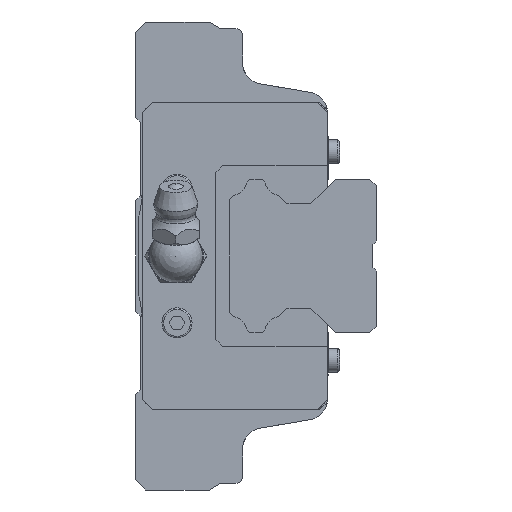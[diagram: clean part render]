
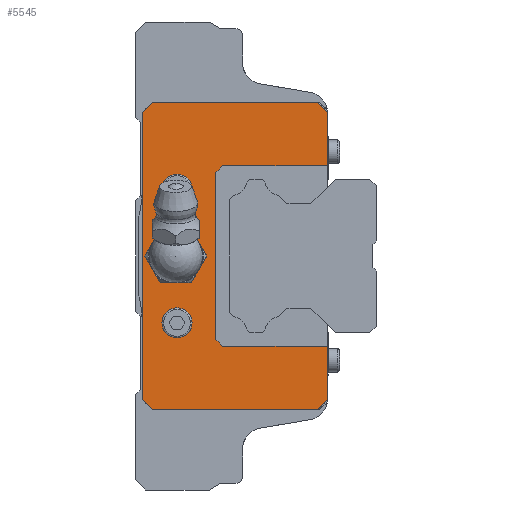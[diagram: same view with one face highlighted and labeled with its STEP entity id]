
A CAD part, left-side view. The second image highlights one B-rep face of the part: STEP entity #5545.
In plain terms, the highlighted planar face has unit normal (-1, 0, 0).
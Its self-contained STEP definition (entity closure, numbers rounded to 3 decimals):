
#275=CIRCLE('',#6039,3.);
#276=CIRCLE('',#6040,2.25);
#277=CIRCLE('',#6041,2.25);
#495=LINE('',#8314,#1045);
#505=LINE('',#8336,#1055);
#534=LINE('',#8395,#1084);
#549=LINE('',#8424,#1099);
#580=LINE('',#8486,#1130);
#602=LINE('',#8537,#1152);
#624=LINE('',#8578,#1174);
#737=LINE('',#9005,#1287);
#739=LINE('',#9008,#1289);
#746=LINE('',#9035,#1296);
#747=LINE('',#9038,#1297);
#748=LINE('',#9039,#1298);
#749=LINE('',#9041,#1299);
#750=LINE('',#9043,#1300);
#1045=VECTOR('',#6675,1000.);
#1055=VECTOR('',#6693,1000.);
#1084=VECTOR('',#6738,1000.);
#1099=VECTOR('',#6757,1000.);
#1130=VECTOR('',#6812,1000.);
#1152=VECTOR('',#6846,1000.);
#1174=VECTOR('',#6870,1000.);
#1287=VECTOR('',#7247,1000.);
#1289=VECTOR('',#7251,1000.);
#1296=VECTOR('',#7278,1000.);
#1297=VECTOR('',#7279,1000.);
#1298=VECTOR('',#7280,1000.);
#1299=VECTOR('',#7281,1000.);
#1300=VECTOR('',#7282,1000.);
#2406=ORIENTED_EDGE('',*,*,#3543,.T.);
#2407=ORIENTED_EDGE('',*,*,#3544,.F.);
#2408=ORIENTED_EDGE('',*,*,#3545,.F.);
#2409=ORIENTED_EDGE('',*,*,#3546,.T.);
#2410=ORIENTED_EDGE('',*,*,#3547,.T.);
#2411=ORIENTED_EDGE('',*,*,#3350,.F.);
#2412=ORIENTED_EDGE('',*,*,#3531,.T.);
#2413=ORIENTED_EDGE('',*,*,#3226,.F.);
#2414=ORIENTED_EDGE('',*,*,#3215,.F.);
#2415=ORIENTED_EDGE('',*,*,#3304,.F.);
#2416=ORIENTED_EDGE('',*,*,#3256,.F.);
#2417=ORIENTED_EDGE('',*,*,#3271,.F.);
#2418=ORIENTED_EDGE('',*,*,#3533,.T.);
#2419=ORIENTED_EDGE('',*,*,#3328,.F.);
#2420=ORIENTED_EDGE('',*,*,#3548,.T.);
#2421=ORIENTED_EDGE('',*,*,#3549,.T.);
#2422=ORIENTED_EDGE('',*,*,#3550,.T.);
#3215=EDGE_CURVE('',#3944,#3945,#495,.T.);
#3226=EDGE_CURVE('',#3945,#3953,#505,.T.);
#3256=EDGE_CURVE('',#3974,#3975,#534,.T.);
#3271=EDGE_CURVE('',#3986,#3974,#549,.T.);
#3304=EDGE_CURVE('',#3975,#3944,#580,.T.);
#3328=EDGE_CURVE('',#4028,#4029,#602,.T.);
#3350=EDGE_CURVE('',#4046,#4047,#624,.T.);
#3531=EDGE_CURVE('',#4046,#3953,#737,.T.);
#3533=EDGE_CURVE('',#3986,#4029,#739,.T.);
#3543=EDGE_CURVE('',#4168,#4168,#275,.T.);
#3544=EDGE_CURVE('',#4169,#4169,#276,.F.);
#3545=EDGE_CURVE('',#4170,#4170,#277,.F.);
#3546=EDGE_CURVE('',#4171,#4172,#746,.T.);
#3547=EDGE_CURVE('',#4172,#4047,#747,.T.);
#3548=EDGE_CURVE('',#4028,#4173,#748,.T.);
#3549=EDGE_CURVE('',#4173,#4174,#749,.T.);
#3550=EDGE_CURVE('',#4174,#4171,#750,.T.);
#3944=VERTEX_POINT('',#8313);
#3945=VERTEX_POINT('',#8315);
#3953=VERTEX_POINT('',#8337);
#3974=VERTEX_POINT('',#8394);
#3975=VERTEX_POINT('',#8396);
#3986=VERTEX_POINT('',#8423);
#4028=VERTEX_POINT('',#8536);
#4029=VERTEX_POINT('',#8538);
#4046=VERTEX_POINT('',#8577);
#4047=VERTEX_POINT('',#8579);
#4168=VERTEX_POINT('',#9030);
#4169=VERTEX_POINT('',#9032);
#4170=VERTEX_POINT('',#9034);
#4171=VERTEX_POINT('',#9036);
#4172=VERTEX_POINT('',#9037);
#4173=VERTEX_POINT('',#9040);
#4174=VERTEX_POINT('',#9042);
#4534=EDGE_LOOP('',(#2406));
#4535=EDGE_LOOP('',(#2407));
#4536=EDGE_LOOP('',(#2408));
#4537=EDGE_LOOP('',(#2409,#2410,#2411,#2412,#2413,#2414,#2415,#2416,#2417,
#2418,#2419,#2420,#2421,#2422));
#4947=FACE_BOUND('',#4534,.T.);
#4948=FACE_BOUND('',#4535,.T.);
#4949=FACE_BOUND('',#4536,.T.);
#4950=FACE_BOUND('',#4537,.T.);
#5275=PLANE('',#6038);
#5545=ADVANCED_FACE('',(#4947,#4948,#4949,#4950),#5275,.F.);
#6038=AXIS2_PLACEMENT_3D('',#9028,#7270,#7271);
#6039=AXIS2_PLACEMENT_3D('',#9029,#7272,#7273);
#6040=AXIS2_PLACEMENT_3D('',#9031,#7274,#7275);
#6041=AXIS2_PLACEMENT_3D('',#9033,#7276,#7277);
#6675=DIRECTION('',(0.,-0.707,0.707));
#6693=DIRECTION('',(0.,-1.,0.));
#6738=DIRECTION('',(0.,0.707,0.707));
#6757=DIRECTION('',(0.,1.,0.));
#6812=DIRECTION('',(0.,0.,1.));
#6846=DIRECTION('',(0.,0.,-1.));
#6870=DIRECTION('',(0.,0.,-1.));
#7247=DIRECTION('',(0.,0.707,0.707));
#7251=DIRECTION('',(0.,-0.707,0.707));
#7270=DIRECTION('',(1.,0.,0.));
#7271=DIRECTION('',(0.,0.,-1.));
#7272=DIRECTION('',(1.,0.,0.));
#7273=DIRECTION('',(0.,0.,-1.));
#7274=DIRECTION('',(1.,0.,0.));
#7275=DIRECTION('',(0.,0.,-1.));
#7276=DIRECTION('',(1.,0.,0.));
#7277=DIRECTION('',(0.,0.,-1.));
#7278=DIRECTION('',(0.,-0.707,0.707));
#7279=DIRECTION('',(0.,-1.,0.));
#7280=DIRECTION('',(0.,1.,0.));
#7281=DIRECTION('',(0.,0.707,0.707));
#7282=DIRECTION('',(0.,0.,1.));
#8313=CARTESIAN_POINT('',(-39.55,29.5,21.5));
#8314=CARTESIAN_POINT('',(-39.55,29.5,21.5));
#8315=CARTESIAN_POINT('',(-39.55,28.,23.));
#8336=CARTESIAN_POINT('',(-39.55,30.5,23.));
#8337=CARTESIAN_POINT('',(-39.55,3.317,23.));
#8394=CARTESIAN_POINT('',(-39.55,28.,-23.));
#8395=CARTESIAN_POINT('',(-39.55,28.,-23.));
#8396=CARTESIAN_POINT('',(-39.55,29.5,-21.5));
#8423=CARTESIAN_POINT('',(-39.55,3.317,-23.));
#8424=CARTESIAN_POINT('',(-39.55,0.,-23.));
#8486=CARTESIAN_POINT('',(-39.55,29.5,-21.5));
#8536=CARTESIAN_POINT('',(-39.55,1.817,-13.5));
#8537=CARTESIAN_POINT('',(-39.55,1.817,-17.8));
#8538=CARTESIAN_POINT('',(-39.55,1.817,-21.5));
#8577=CARTESIAN_POINT('',(-39.55,1.817,21.5));
#8578=CARTESIAN_POINT('',(-39.55,1.817,-17.8));
#8579=CARTESIAN_POINT('',(-39.55,1.817,13.5));
#9005=CARTESIAN_POINT('',(-39.55,3.317,23.));
#9008=CARTESIAN_POINT('',(-39.55,1.817,-21.5));
#9028=CARTESIAN_POINT('',(-39.55,0.,0.));
#9029=CARTESIAN_POINT('',(-39.55,24.5,0.));
#9030=CARTESIAN_POINT('',(-39.55,24.5,-3.));
#9031=CARTESIAN_POINT('',(-39.55,24.317,10.));
#9032=CARTESIAN_POINT('',(-39.55,24.317,7.75));
#9033=CARTESIAN_POINT('',(-39.55,24.317,-10.));
#9034=CARTESIAN_POINT('',(-39.55,24.317,-12.25));
#9035=CARTESIAN_POINT('',(-39.55,18.5,12.5));
#9036=CARTESIAN_POINT('',(-39.55,18.5,12.5));
#9037=CARTESIAN_POINT('',(-39.55,17.5,13.5));
#9038=CARTESIAN_POINT('',(-39.55,17.5,13.5));
#9039=CARTESIAN_POINT('',(-39.55,1.817,-13.5));
#9040=CARTESIAN_POINT('',(-39.55,17.5,-13.5));
#9041=CARTESIAN_POINT('',(-39.55,17.5,-13.5));
#9042=CARTESIAN_POINT('',(-39.55,18.5,-12.5));
#9043=CARTESIAN_POINT('',(-39.55,18.5,-12.5));
